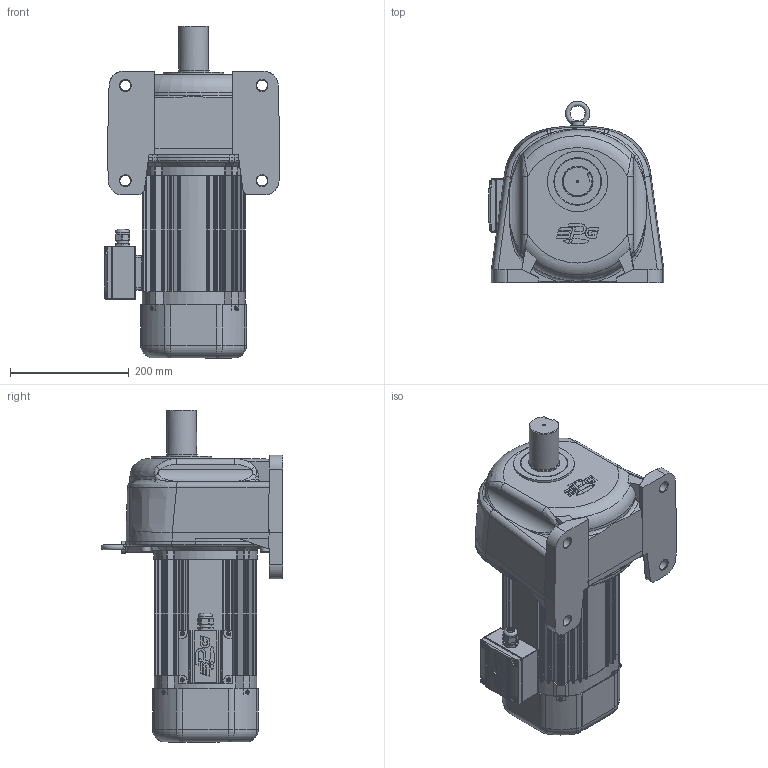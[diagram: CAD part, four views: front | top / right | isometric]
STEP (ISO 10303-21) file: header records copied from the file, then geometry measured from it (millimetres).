
FILE_DESCRIPTION(/* description */ (''),/* implementation_level */ '2;1');
FILE_NAME(/* name */ 'Z:\동력 3D 파일\PAL50-(100~200)-PC(D)150[ ]L_(3D).stp',/* time_stamp */ '2021-10-18T17:39:36+09:00',/* author */ ('jaebok'),/* organization */ (''),/* preprocessor_version */ 'ST-DEVELOPER v18.1',/* originating_system */ 'Autodesk Inventor 2022',/* authorisation */ '');
FILE_SCHEMA (('AUTOMOTIVE_DESIGN { 1 0 10303 214 3 1 1 }'));
Length unit declared in the file: millimetre
Products named in the file (1): 부품11
Bounding box: 295.5 x 305.23 x 558.3 mm (x, y, z)
Volume: 6404106.7 mm3; surface area: 1260998.2 mm2
Topology: 1 solids, 32 shells, 2676 faces, 6827 edges, 4185 vertices
Faces by surface type: plane 933, cylinder 752, bspline 573, cone 183, torus 179, sphere 56
Full cylindrical faces by diameter (mm): 2.5 x2, 3.25 x1, 3.6 x4, 4 x22, 5 x17, 6 x9, 7 x12, 8 x3, 8.376 x4, 8.5 x1, 8.8 x1, 10 x7, 11 x4, 12.5 x1, 15 x1, 16 x4, 18 x4, 20 x2, 21 x1, 22 x1, 23.6 x1, 25 x2, 35.8 x1, 36 x2, 40 x1, 49.8 x2, 50 x2, 52 x2, 52.8 x1, 55 x1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
Entity records: 102930 total; most frequent: CARTESIAN_POINT 38948, ORIENTED_EDGE 13432, DIRECTION 12078, EDGE_CURVE 6716, AXIS2_PLACEMENT_3D 4771, VERTEX_POINT 4183, EDGE_LOOP 2874, FACE_OUTER_BOUND 2676
